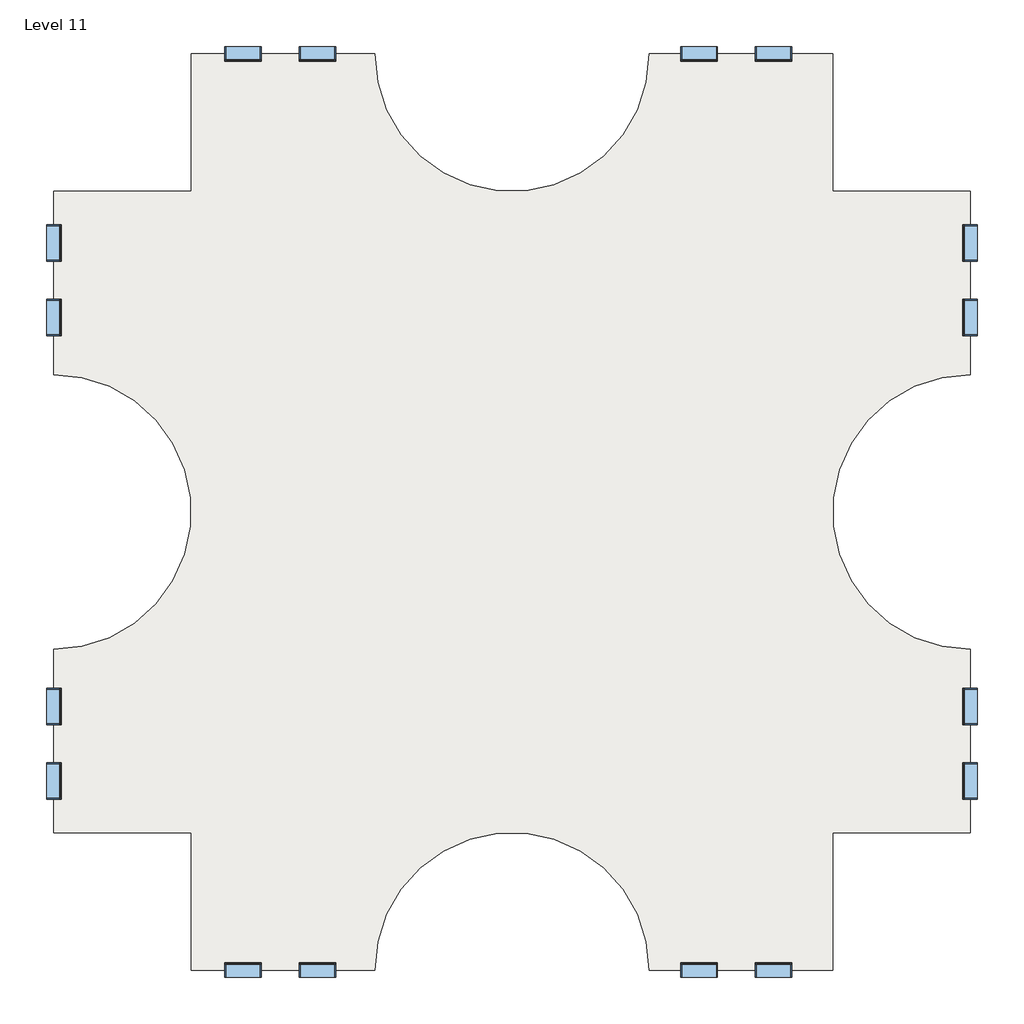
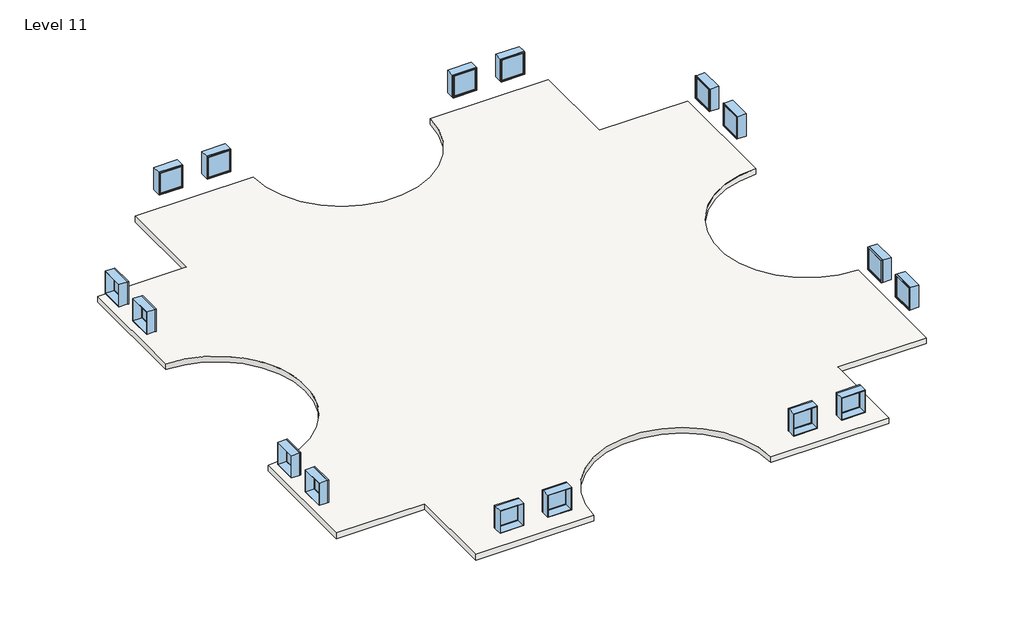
# One storey: 16 windows, 2 slabs.
"""IFC4 building model written with IfcOpenShell, lengths in millimetres."""

import ifcopenshell
import ifcopenshell.guid

model = None  # the IFC model being written
_history = None  # IfcOwnerHistory: only IFC2X3 demands one
_inside = {}  # id of a spatial element -> (the spatial element, [elements in it])
_under = {}  # id of a project, library or spatial element -> (it, [spatial elements below it])
_declared = {}  # id of a project -> (the project, [libraries it declares])
_typed = {}  # id of a type object -> (the type object, [elements of that type])
_made_of = {}  # id of a material, layer set ... -> (it, [elements and type objects made of it])


def new_model(schema):
    """Start an empty IFC model of exactly this schema.

    Asked for "IFC4X3", IfcOpenShell would pick the latest addendum, in which some entities
    have other attributes; the version numbers below select the first issue.
    IFC2X3 requires an IfcOwnerHistory on every rooted entity: one is made here for all.
    """
    global model, _history
    if schema == "IFC4X3":
        model = ifcopenshell.file(schema_version=(4, 3, 0, 0))
    else:
        model = ifcopenshell.file(schema=schema)
    _inside.clear()
    _under.clear()
    _declared.clear()
    _typed.clear()
    _made_of.clear()
    _history = None
    if model.schema == "IFC2X3":
        org = make("IfcOrganization", Name="unknown")
        user = make(
            "IfcPersonAndOrganization",
            ThePerson=make("IfcPerson", FamilyName="unknown"),
            TheOrganization=org,
        )
        app = make(
            "IfcApplication",
            ApplicationDeveloper=org,
            Version="unknown",
            ApplicationFullName="unknown",
            ApplicationIdentifier="unknown",
        )
        _history = make(
            "IfcOwnerHistory",
            OwningUser=user,
            OwningApplication=app,
            ChangeAction="ADDED",
            CreationDate=0,
        )
    return model


def make(cls, **values):
    """One entity of the class cls with the attributes given. An attribute that is None is left unset."""
    return model.create_entity(
        cls, **{name: value for name, value in values.items() if value is not None}
    )


def rooted(cls, **values):
    """An entity with a GlobalId (a new one), such as an element, a storey or a relation."""
    return make(cls, GlobalId=ifcopenshell.guid.new(), OwnerHistory=_history, **values)


def si_unit(unit_type, name, prefix=None):
    """IfcSIUnit, for example si_unit("LENGTHUNIT", "METRE", prefix="MILLI")."""
    return make("IfcSIUnit", UnitType=unit_type, Prefix=prefix, Name=name)


def assignment(units):
    """IfcUnitAssignment: the units of a project."""
    return None if units is None else make("IfcUnitAssignment", Units=units)


def point(xyz):
    """IfcCartesianPoint."""
    return None if xyz is None else make("IfcCartesianPoint", Coordinates=xyz)


def direction(xyz):
    """IfcDirection."""
    return None if xyz is None else make("IfcDirection", DirectionRatios=xyz)


def frame(location, z_axis=None, x_axis=None):
    """IfcAxis2Placement3D, a coordinate frame: its origin and axes. An axis left out is left unset."""
    return make(
        "IfcAxis2Placement3D",
        Location=point(location),
        Axis=direction(z_axis),
        RefDirection=direction(x_axis),
    )


def frame_2d(location, x_axis=None):
    """IfcAxis2Placement2D, a coordinate frame in the plane: its origin and x axis."""
    return make(
        "IfcAxis2Placement2D", Location=point(location), RefDirection=direction(x_axis)
    )


def origin():
    """The frame at (0, 0, 0) with its axes left unset."""
    return frame((0.0, 0.0, 0.0))


def place(relative_to, where):
    """IfcLocalPlacement: puts the frame where relative to a parent placement (None: the world)."""
    return make(
        "IfcLocalPlacement", PlacementRelTo=relative_to, RelativePlacement=where
    )


def context(
    kind, dimensions, precision=None, world=None, true_north=None, identifier=None
):
    """IfcGeometricRepresentationContext, for example the 3D "Model" context."""
    return make(
        "IfcGeometricRepresentationContext",
        ContextIdentifier=identifier,
        ContextType=kind,
        CoordinateSpaceDimension=dimensions,
        Precision=precision,
        WorldCoordinateSystem=world,
        TrueNorth=true_north,
    )


def project(units=None, contexts=None):
    """IfcProject with its units and contexts."""
    return rooted(
        "IfcProject",
        Name="project",
        RepresentationContexts=contexts,
        UnitsInContext=assignment(units),
    )


def spatial(cls, under=None, at=None, **own):
    """A site, building, storey or space (cls), placed at a placement, below another one or the project."""
    s = rooted(cls, ObjectPlacement=at, **own)
    if under is not None:
        _under.setdefault(under.id(), (under, []))[1].append(s)
    return s


def polyline(points):
    """IfcPolyline through the points."""
    return make("IfcPolyline", Points=[point(p) for p in points])


def circle_curve(where, radius):
    """IfcCircle in the frame where."""
    return make("IfcCircle", Position=where, Radius=radius)


def trimmed(basis, trim1, trim2, sense, master):
    """IfcTrimmedCurve: the piece of a basis curve between two trims."""
    return make(
        "IfcTrimmedCurve",
        BasisCurve=basis,
        Trim1=trim1,
        Trim2=trim2,
        SenseAgreement=sense,
        MasterRepresentation=master,
    )


def segment(curve, same_sense, transition):
    """IfcCompositeCurveSegment."""
    return make(
        "IfcCompositeCurveSegment",
        Transition=transition,
        SameSense=same_sense,
        ParentCurve=curve,
    )


def composite_curve(segments, self_intersect=None):
    """IfcCompositeCurve: segments joined end to end."""
    return make("IfcCompositeCurve", Segments=segments, SelfIntersect=self_intersect)


def outline(outer, holes=None, kind="AREA"):
    """IfcArbitraryClosedProfileDef: a profile drawn as a closed curve; with holes, ...WithVoids."""
    if holes is None:
        return make("IfcArbitraryClosedProfileDef", ProfileType=kind, OuterCurve=outer)
    return make(
        "IfcArbitraryProfileDefWithVoids",
        ProfileType=kind,
        OuterCurve=outer,
        InnerCurves=holes,
    )


def extrude(swept, where, along, depth):
    """IfcExtrudedAreaSolid: the profile swept, set in the frame where, extruded along a direction by depth."""
    return make(
        "IfcExtrudedAreaSolid",
        SweptArea=swept,
        Position=where,
        ExtrudedDirection=direction(along),
        Depth=depth,
    )


def shape(context_of_items, identifier, shape_type, items):
    """IfcShapeRepresentation: the items that make up one representation, for example the "Body"."""
    return make(
        "IfcShapeRepresentation",
        ContextOfItems=context_of_items,
        RepresentationIdentifier=identifier,
        RepresentationType=shape_type,
        Items=items,
    )


def source(mapping_origin, context_of_items, identifier, shape_type, items):
    """IfcRepresentationMap: a shape defined once, which mapped items show again and again."""
    return make(
        "IfcRepresentationMap",
        MappingOrigin=mapping_origin,
        MappedRepresentation=shape(context_of_items, identifier, shape_type, items),
    )


def transform(
    local_origin,
    x_axis=None,
    y_axis=None,
    z_axis=None,
    scale=None,
    scale2=None,
    scale3=None,
    uniform=True,
):
    """IfcCartesianTransformationOperator3D, or its non-uniform kind. x_axis, y_axis, z_axis: its Axis1, 2, 3."""
    if uniform:
        return make(
            "IfcCartesianTransformationOperator3D",
            Axis1=direction(x_axis),
            Axis2=direction(y_axis),
            LocalOrigin=point(local_origin),
            Scale=scale,
            Axis3=direction(z_axis),
        )
    return make(
        "IfcCartesianTransformationOperator3DnonUniform",
        Axis1=direction(x_axis),
        Axis2=direction(y_axis),
        LocalOrigin=point(local_origin),
        Scale=scale,
        Axis3=direction(z_axis),
        Scale2=scale2,
        Scale3=scale3,
    )


def mapped(mapping_source, mapping_target):
    """IfcMappedItem: shows the shape of a source again, moved by a transform."""
    return make(
        "IfcMappedItem", MappingSource=mapping_source, MappingTarget=mapping_target
    )


def made_of(thing, what):
    """Note that an element or type object is made of a material, layer set ...; save() writes the relation."""
    if what is not None:
        _made_of.setdefault(what.id(), (what, []))[1].append(thing)
    return thing


def element(
    cls,
    number,
    at=None,
    inside=None,
    cuts=None,
    type_object=None,
    material=None,
    context=None,
    identifier="Body",
    shape_type=None,
    held_by="IfcProductDefinitionShape",
    body=None,
    shapes=None,
    **own,
):
    """One element of the class cls, such as IfcWall. Its Tag is "e" and its number.

    at: its placement. inside: the storey or other place that contains it. cuts: it is an
    opening in that element (IfcRelVoidsElement). A single representation is given by context,
    identifier, shape_type and body (its items); several are given by shapes. held_by: the class
    of the entity that holds the representations. save() writes the other relations.
    """
    e = rooted(cls, Tag="e%d" % number, ObjectPlacement=at, **own)
    if body is not None:
        shapes = [shape(context, identifier, shape_type, body)]
    if shapes is not None:
        e.Representation = make(held_by, Representations=shapes)
    if inside is not None:
        _inside.setdefault(inside.id(), (inside, []))[1].append(e)
    if cuts is not None:
        rooted(
            "IfcRelVoidsElement", RelatingBuildingElement=cuts, RelatedOpeningElement=e
        )
    if type_object is not None:
        _typed.setdefault(type_object.id(), (type_object, []))[1].append(e)
    return made_of(e, material)


def aggregate(whole, parts):
    """IfcRelAggregates: a whole, such as a stair, and the parts it consists of."""
    return rooted("IfcRelAggregates", RelatingObject=whole, RelatedObjects=parts)


def save(model, path):
    """Write the relations noted so far, then the file.

    IfcRelAggregates (storeys below a building ...), IfcRelContainedInSpatialStructure (elements
    in a storey), IfcRelDefinesByType, IfcRelAssociatesMaterial and IfcRelDeclares: one each for
    every whole, place, type object, material and project.
    """
    for whole, parts in _under.values():
        aggregate(whole, parts)
    for where, things in _inside.values():
        rooted(
            "IfcRelContainedInSpatialStructure",
            RelatedElements=things,
            RelatingStructure=where,
        )
    for kind, things in _typed.values():
        rooted("IfcRelDefinesByType", RelatedObjects=things, RelatingType=kind)
    for what, things in _made_of.values():
        rooted("IfcRelAssociatesMaterial", RelatedObjects=things, RelatingMaterial=what)
    for by, libraries in _declared.values():
        rooted("IfcRelDeclares", RelatingContext=by, RelatedDefinitions=libraries)
    model.write(path)


def window_d0035ecf(model_context):
    return source(origin(), model_context, "Body", "SweptSolid", [
        extrude(outline(polyline([(508.0, 200.025), (-584.2, 200.025), (-584.2, 212.725), (508.0, 212.725), (508.0, 200.025)])), frame((0.0, 0.0, 977.9), z_axis=(0.0, 0.0, 1.0), x_axis=(1.0, 0.0, 0.0)), (0.0, 0.0, 1.0), 1092.2),
        extrude(outline(polyline([(2114.55, -628.65), (933.45, -628.65), (933.45, 552.45), (2114.55, 552.45), (2114.55, -628.65)]), holes=[polyline([(2070.1, -584.2), (2070.1, 508.0), (977.9, 508.0), (977.9, -584.2), (2070.1, -584.2)])]), frame((0.0, 184.15, 0.0), z_axis=(0.0, 1.0, 0.0), x_axis=(0.0, 0.0, 1.0)), (0.0, 0.0, 1.0), 44.45),
        extrude(outline(polyline([(2133.6, -647.7), (914.4, -647.7), (914.4, 571.5), (2133.6, 571.5), (2133.6, -647.7)]), holes=[polyline([(2101.85, -615.95), (2101.85, 539.75), (946.15, 539.75), (946.15, -615.95), (2101.85, -615.95)])]), frame((0.0, -247.65, 0.0), z_axis=(0.0, 1.0, 0.0), x_axis=(0.0, 0.0, 1.0)), (0.0, 0.0, 1.0), 431.8),
        extrude(outline(polyline([(2133.6, 571.5), (2133.6, -647.7), (914.4, -647.7), (914.4, 571.5), (2133.6, 571.5)]), holes=[polyline([(2114.55, 552.45), (933.45, 552.45), (933.45, -628.65), (2114.55, -628.65), (2114.55, 552.45)])]), frame((0.0, 184.15, 0.0), z_axis=(0.0, 1.0, 0.0), x_axis=(0.0, 0.0, 1.0)), (0.0, 0.0, 1.0), 63.5),
    ])


def window_d434eb62(model_context):
    return source(origin(), model_context, "Body", "SweptSolid", [
        extrude(outline(polyline([(508.0, -200.025), (508.0, -212.725), (-584.2, -212.725), (-584.2, -200.025), (508.0, -200.025)])), frame((0.0, 0.0, 977.9), z_axis=(0.0, 0.0, 1.0), x_axis=(1.0, 0.0, 0.0)), (0.0, 0.0, 1.0), 1092.2),
        extrude(outline(polyline([(2114.55, -628.65), (933.45, -628.65), (933.45, 552.45), (2114.55, 552.45), (2114.55, -628.65)]), holes=[polyline([(2070.1, -584.2), (2070.1, 508.0), (977.9, 508.0), (977.9, -584.2), (2070.1, -584.2)])]), frame((0.0, -228.6, 0.0), z_axis=(0.0, 1.0, 0.0), x_axis=(0.0, 0.0, 1.0)), (0.0, 0.0, 1.0), 44.45),
        extrude(outline(polyline([(2133.6, -647.7), (914.4, -647.7), (914.4, 571.5), (2133.6, 571.5), (2133.6, -647.7)]), holes=[polyline([(2101.85, -615.95), (2101.85, 539.75), (946.15, 539.75), (946.15, -615.95), (2101.85, -615.95)])]), frame((0.0, -184.15, 0.0), z_axis=(0.0, 1.0, 0.0), x_axis=(0.0, 0.0, 1.0)), (0.0, 0.0, 1.0), 431.8),
        extrude(outline(polyline([(2133.6, 571.5), (2133.6, -647.7), (914.4, -647.7), (914.4, 571.5), (2133.6, 571.5)]), holes=[polyline([(2114.55, 552.45), (933.45, 552.45), (933.45, -628.65), (2114.55, -628.65), (2114.55, 552.45)])]), frame((0.0, -247.65, 0.0), z_axis=(0.0, 1.0, 0.0), x_axis=(0.0, 0.0, 1.0)), (0.0, 0.0, 1.0), 63.5),
    ])


model = new_model("IFC4")

# Units and contexts
model_context = context("Model", 3, world=origin())
ifc_project = project(units=[si_unit("LENGTHUNIT", "METRE", prefix="MILLI")], contexts=[model_context])

# Site, building, storey
site = spatial("IfcSite", under=ifc_project)
building = spatial("IfcBuilding", under=site)
storey = spatial("IfcBuildingStorey", under=building, Name="Level 11", Elevation=30480.0)

# Slabs
placement = place(None, origin())
element("IfcSlab", 1, ObjectType="Generic - 12\"", at=placement, inside=storey, context=model_context, shape_type="SweptSolid", body=[
    extrude(outline(composite_curve([segment(polyline([(-7150.3629456, 4479.6634547), (-7150.3629456, 9051.6634547), (-1054.3629456, 9051.6634547)]), True, "CONTINUOUS"), segment(trimmed(circle_curve(frame_2d((3517.6370544, 9051.6634547)), 4572.0), [point((-1054.3629456, 9051.6634547))], [point((8089.6370544, 9051.6634547))], True, "CARTESIAN"), True, "CONTINUOUS"), segment(polyline([(8089.6370544, 9051.6634547), (14185.6370544, 9051.6634547), (14185.6370544, 4479.6634547), (18757.6370544, 4479.6634547), (18757.6370544, -1616.3365453)]), True, "CONTINUOUS"), segment(trimmed(circle_curve(frame_2d((18757.6370544, -6188.3365453)), 4572.0), [point((18757.6370544, -1616.3365453))], [point((18757.6370544, -10760.3365453))], True, "CARTESIAN"), True, "CONTINUOUS"), segment(polyline([(18757.6370544, -10760.3365453), (18757.6370544, -16856.3365453), (14185.6370544, -16856.3365453), (14185.6370544, -21428.3365453), (8089.6370544, -21428.3365453)]), True, "CONTINUOUS"), segment(trimmed(circle_curve(frame_2d((3517.6370544, -21428.3365453)), 4572.0), [point((8089.6370544, -21428.3365453))], [point((-1054.3629456, -21428.3365453))], True, "CARTESIAN"), True, "CONTINUOUS"), segment(polyline([(-1054.3629456, -21428.3365453), (-7150.3629456, -21428.3365453), (-7150.3629456, -16856.3365453), (-11722.3629456, -16856.3365453), (-11722.3629456, -10760.3365453)]), True, "CONTINUOUS"), segment(trimmed(circle_curve(frame_2d((-11722.3629456, -6188.3365453)), 4572.0), [point((-11722.3629456, -10760.3365453))], [point((-11722.3629456, -1616.3365453))], True, "CARTESIAN"), True, "CONTINUOUS"), segment(polyline([(-11722.3629456, -1616.3365453), (-11722.3629456, 4479.6634547), (-7150.3629456, 4479.6634547)]), True, "CONTINUOUS")], self_intersect=False)), frame((0.0, 0.0, 30175.2), z_axis=(0.0, 0.0, 1.0), x_axis=(1.0, 0.0, 0.0)), (0.0, 0.0, 1.0), 304.8),
])
element("IfcSlab", 2, ObjectType="Generic - 12\"", at=placement, inside=storey, context=model_context, shape_type="SweptSolid", body=[
    extrude(outline(composite_curve([segment(polyline([(-7150.3629456, 4479.6634547), (-7150.3629456, 9051.6634547), (-1054.3629456, 9051.6634547)]), True, "CONTINUOUS"), segment(trimmed(circle_curve(frame_2d((3517.6370544, 9051.6634547)), 4572.0), [point((-1054.3629456, 9051.6634547))], [point((8089.6370544, 9051.6634547))], True, "CARTESIAN"), True, "CONTINUOUS"), segment(polyline([(8089.6370544, 9051.6634547), (14185.6370544, 9051.6634547), (14185.6370544, 4479.6634547), (18757.6370544, 4479.6634547), (18757.6370544, -1616.3365453)]), True, "CONTINUOUS"), segment(trimmed(circle_curve(frame_2d((18757.6370544, -6188.3365453)), 4572.0), [point((18757.6370544, -1616.3365453))], [point((18757.6370544, -10760.3365453))], True, "CARTESIAN"), True, "CONTINUOUS"), segment(polyline([(18757.6370544, -10760.3365453), (18757.6370544, -16856.3365453), (14185.6370544, -16856.3365453), (14185.6370544, -21428.3365453), (8089.6370544, -21428.3365453)]), True, "CONTINUOUS"), segment(trimmed(circle_curve(frame_2d((3517.6370544, -21428.3365453)), 4572.0), [point((8089.6370544, -21428.3365453))], [point((-1054.3629456, -21428.3365453))], True, "CARTESIAN"), True, "CONTINUOUS"), segment(polyline([(-1054.3629456, -21428.3365453), (-7150.3629456, -21428.3365453), (-7150.3629456, -16856.3365453), (-11722.3629456, -16856.3365453), (-11722.3629456, -10760.3365453)]), True, "CONTINUOUS"), segment(trimmed(circle_curve(frame_2d((-11722.3629456, -6188.3365453)), 4572.0), [point((-11722.3629456, -10760.3365453))], [point((-11722.3629456, -1616.3365453))], True, "CARTESIAN"), True, "CONTINUOUS"), segment(polyline([(-11722.3629456, -1616.3365453), (-11722.3629456, 4479.6634547), (-7150.3629456, 4479.6634547)]), True, "CONTINUOUS")], self_intersect=False)), frame((0.0, 0.0, 30175.2), z_axis=(0.0, 0.0, 1.0), x_axis=(1.0, 0.0, 0.0)), (0.0, 0.0, 1.0), 304.8),
])

# Windows
window_shape = window_d0035ecf(model_context)
element("IfcWindow", 3, ObjectType="Fixed : 48\" x 48\"", at=placement, inside=storey, context=model_context, shape_type="MappedRepresentation", body=[
    mapped(window_shape, transform((-11719.1879456, 247.3884547, 30480.0), x_axis=(0.0, -1.0, 0.0), y_axis=(1.0, 0.0, 0.0), z_axis=(0.0, 0.0, 1.0))),
])
element("IfcWindow", 4, ObjectType="Fixed : 48\" x 48\"", at=placement, inside=storey, context=model_context, shape_type="MappedRepresentation", body=[
    mapped(window_shape, transform((-5469.1993281, 9048.4884547, 30480.0), x_axis=(-1.0, 0.0, 0.0), y_axis=(0.0, -1.0, 0.0), z_axis=(0.0, 0.0, 1.0))),
])
element("IfcWindow", 5, ObjectType="Fixed : 48\" x 48\"", at=placement, inside=storey, context=model_context, shape_type="MappedRepresentation", body=[
    mapped(window_shape, transform((-11719.1879456, -15175.1729277, 30480.0), x_axis=(0.0, -1.0, 0.0), y_axis=(1.0, 0.0, 0.0), z_axis=(0.0, 0.0, 1.0))),
])
element("IfcWindow", 6, ObjectType="Fixed : 48\" x 48\"", at=placement, inside=storey, context=model_context, shape_type="MappedRepresentation", body=[
    mapped(window_shape, transform((-2918.0879456, -21425.1615453, 30480.0), x_axis=(1.0, 0.0, 0.0), y_axis=(0.0, 1.0, 0.0), z_axis=(0.0, 0.0, 1.0))),
])
element("IfcWindow", 7, ObjectType="Fixed : 48\" x 48\"", at=placement, inside=storey, context=model_context, shape_type="MappedRepresentation", body=[
    mapped(window_shape, transform((18754.4620544, 2798.4998372, 30480.0), x_axis=(0.0, 1.0, 0.0), y_axis=(-1.0, 0.0, 0.0), z_axis=(0.0, 0.0, 1.0))),
])
element("IfcWindow", 8, ObjectType="Fixed : 48\" x 48\"", at=placement, inside=storey, context=model_context, shape_type="MappedRepresentation", body=[
    mapped(window_shape, transform((9705.7120544, 9048.4884547, 30480.0), x_axis=(-1.0, 0.0, 0.0), y_axis=(0.0, -1.0, 0.0), z_axis=(0.0, 0.0, 1.0))),
])
element("IfcWindow", 9, ObjectType="Fixed : 48\" x 48\"", at=placement, inside=storey, context=model_context, shape_type="MappedRepresentation", body=[
    mapped(window_shape, transform((18754.4620544, -12624.0615453, 30480.0), x_axis=(0.0, 1.0, 0.0), y_axis=(-1.0, 0.0, 0.0), z_axis=(0.0, 0.0, 1.0))),
])
element("IfcWindow", 10, ObjectType="Fixed : 48\" x 48\"", at=placement, inside=storey, context=model_context, shape_type="MappedRepresentation", body=[
    mapped(window_shape, transform((12256.8234368, -21425.1615453, 30480.0), x_axis=(1.0, 0.0, 0.0), y_axis=(0.0, 1.0, 0.0), z_axis=(0.0, 0.0, 1.0))),
])
window_2_shape = window_d434eb62(model_context)
element("IfcWindow", 11, ObjectType="Fixed : 48\" x 48\"", at=placement, inside=storey, context=model_context, shape_type="MappedRepresentation", body=[
    mapped(window_2_shape, transform((-11719.1879456, 2798.4998372, 30480.0), x_axis=(0.0, 1.0, 0.0), y_axis=(-1.0, 0.0, 0.0), z_axis=(0.0, 0.0, 1.0))),
])
element("IfcWindow", 12, ObjectType="Fixed : 48\" x 48\"", at=placement, inside=storey, context=model_context, shape_type="MappedRepresentation", body=[
    mapped(window_2_shape, transform((-2918.0879456, 9048.4884547, 30480.0), x_axis=(1.0, 0.0, 0.0), y_axis=(0.0, 1.0, 0.0), z_axis=(0.0, 0.0, 1.0))),
])
element("IfcWindow", 13, ObjectType="Fixed : 48\" x 48\"", at=placement, inside=storey, context=model_context, shape_type="MappedRepresentation", body=[
    mapped(window_2_shape, transform((-11719.1879456, -12624.0615453, 30480.0), x_axis=(0.0, 1.0, 0.0), y_axis=(-1.0, 0.0, 0.0), z_axis=(0.0, 0.0, 1.0))),
])
element("IfcWindow", 14, ObjectType="Fixed : 48\" x 48\"", at=placement, inside=storey, context=model_context, shape_type="MappedRepresentation", body=[
    mapped(window_2_shape, transform((-5469.1993281, -21425.1615453, 30480.0), x_axis=(-1.0, 0.0, 0.0), y_axis=(0.0, -1.0, 0.0), z_axis=(0.0, 0.0, 1.0))),
])
element("IfcWindow", 15, ObjectType="Fixed : 48\" x 48\"", at=placement, inside=storey, context=model_context, shape_type="MappedRepresentation", body=[
    mapped(window_2_shape, transform((18754.4620544, 247.3884547, 30480.0), x_axis=(0.0, -1.0, 0.0), y_axis=(1.0, 0.0, 0.0), z_axis=(0.0, 0.0, 1.0))),
])
element("IfcWindow", 16, ObjectType="Fixed : 48\" x 48\"", at=placement, inside=storey, context=model_context, shape_type="MappedRepresentation", body=[
    mapped(window_2_shape, transform((12256.8234368, 9048.4884547, 30480.0), x_axis=(1.0, 0.0, 0.0), y_axis=(0.0, 1.0, 0.0), z_axis=(0.0, 0.0, 1.0))),
])
element("IfcWindow", 17, ObjectType="Fixed : 48\" x 48\"", at=placement, inside=storey, context=model_context, shape_type="MappedRepresentation", body=[
    mapped(window_2_shape, transform((18754.4620544, -15175.1729277, 30480.0), x_axis=(0.0, -1.0, 0.0), y_axis=(1.0, 0.0, 0.0), z_axis=(0.0, 0.0, 1.0))),
])
element("IfcWindow", 18, ObjectType="Fixed : 48\" x 48\"", at=placement, inside=storey, context=model_context, shape_type="MappedRepresentation", body=[
    mapped(window_2_shape, transform((9705.7120544, -21425.1615453, 30480.0), x_axis=(-1.0, 0.0, 0.0), y_axis=(0.0, -1.0, 0.0), z_axis=(0.0, 0.0, 1.0))),
])

save(model, "model.ifc")
